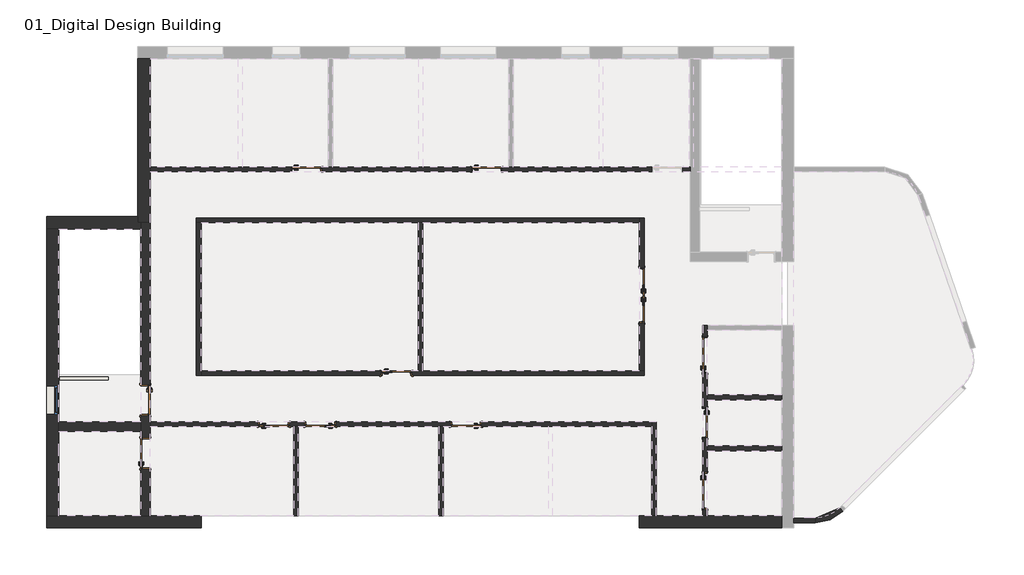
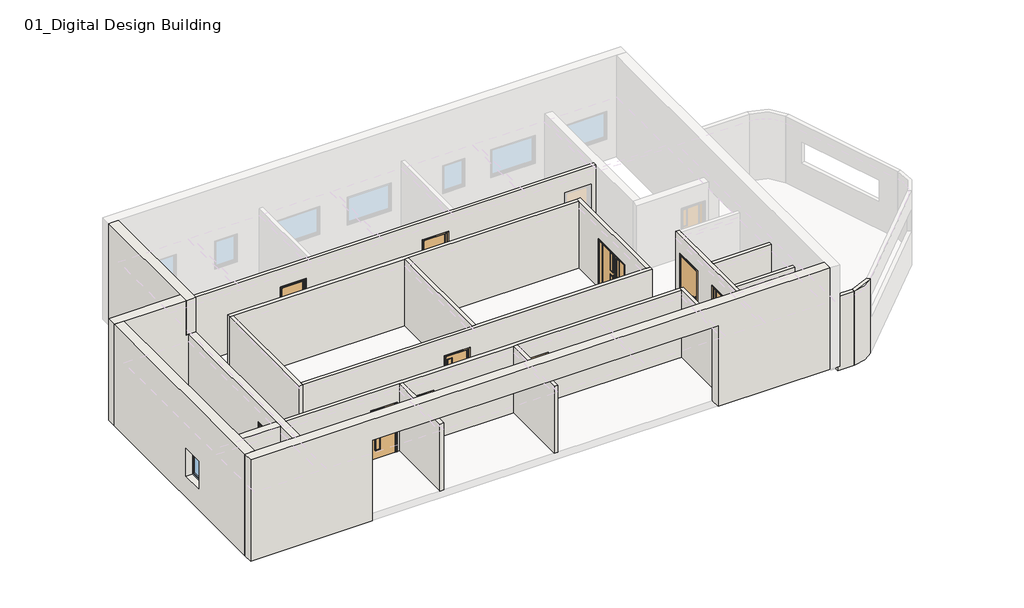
# One storey, part 1 of 2: 22 walls, 12 doors, 1 window.
"""IFC4 building model written with IfcOpenShell, lengths in millimetres."""

from ifc_helpers import new_model, si_unit, point, frame, frame_2d, origin, place, context, project, spatial, polyline, circle_curve, trimmed, segment, composite_curve, outline, extrude, faceted_brep, transform, mapped, element, save
from components import doors_intdbl_3_1810x2110mm_64ebe9ef, doors_intdbl_3_1810x2110mm_1437e5d7, doors_intsgl_1_1010x2110mm_12a6edaf, doors_intsgl_1_1010x2110mm_5517da8e, doors_intsgl_1_1200x2110mm_e831e5cc, doors_intsgl_1_1200x2110mm_07b1b6db, doors_intsgl_3_1010x2110mm_4cc0f6b2, doors_intsgl_3_1010x2110mm_0dcaffd3, windows_concept_plain_sgl_910x1210mm_ef0b7ad2

model = new_model("IFC4")

# Units and contexts
model_context = context("Model", 3, world=origin())
ifc_project = project(units=[si_unit("LENGTHUNIT", "METRE", prefix="MILLI")], contexts=[model_context])

# Site, building, storey
site = spatial("IfcSite", under=ifc_project)
building = spatial("IfcBuilding", under=site)
storey = spatial("IfcBuildingStorey", under=building, Name="01_Digital Design Building", Elevation=4500.0)

# Doors
placement = place(None, origin())
doors_intdbl_3_1810x2110mm_shape = doors_intdbl_3_1810x2110mm_64ebe9ef(model_context)
doors_intdbl_3_1810x2110mm_2_shape = doors_intdbl_3_1810x2110mm_1437e5d7(model_context)
element("IfcDoor", 1, ObjectType="Doors_IntDbl_3 : 1810x2110mm", at=placement, inside=storey, context=model_context, shape_type="MappedRepresentation", body=[
    mapped(doors_intdbl_3_1810x2110mm_shape, transform((441217.3206883, -389199.0026386, 4500.0), x_axis=(0.0, -1.0, 0.0), y_axis=(1.0, 0.0, 0.0), z_axis=(0.0, 0.0, 1.0))),
    mapped(doors_intdbl_3_1810x2110mm_2_shape, transform((441217.3206883, -389199.0026386, 4500.0), x_axis=(0.0, -1.0, 0.0), y_axis=(1.0, 0.0, 0.0), z_axis=(0.0, 0.0, 1.0))),
])
doors_intsgl_1_1010x2110mm_shape = doors_intsgl_1_1010x2110mm_12a6edaf(model_context)
element("IfcDoor", 2, ObjectType="Doors_IntSgl_1 : 1010x2110mm", at=placement, inside=storey, context=model_context, shape_type="MappedRepresentation", body=[
    mapped(doors_intsgl_1_1010x2110mm_shape, transform((430375.4635455, -385124.0026386, 4500.0), x_axis=(1.0, 0.0, 0.0), y_axis=(0.0, 1.0, 0.0), z_axis=(0.0, 0.0, 1.0))),
])
element("IfcDoor", 3, ObjectType="Doors_IntSgl_1 : 1010x2110mm", at=placement, inside=storey, context=model_context, shape_type="MappedRepresentation", body=[
    mapped(doors_intsgl_1_1010x2110mm_shape, transform((436208.6064026, -385124.0026386, 4500.0), x_axis=(1.0, 0.0, 0.0), y_axis=(0.0, 1.0, 0.0), z_axis=(0.0, 0.0, 1.0))),
])
element("IfcDoor", 4, ObjectType="Doors_IntSgl_1 : 1010x2110mm", at=placement, inside=storey, context=model_context, shape_type="MappedRepresentation", body=[
    mapped(doors_intsgl_1_1010x2110mm_shape, transform((443263.3206883, -393328.0026386, 4500.0), x_axis=(0.0, -1.0, 0.0), y_axis=(1.0, 0.0, 0.0), z_axis=(0.0, 0.0, 1.0))),
])
element("IfcDoor", 5, ObjectType="Doors_IntSgl_1 : 1010x2110mm", at=placement, inside=storey, context=model_context, shape_type="MappedRepresentation", body=[
    mapped(doors_intsgl_1_1010x2110mm_shape, transform((435533.3206883, -393374.0026386, 4500.0), x_axis=(-1.0, 0.0, 0.0), y_axis=(0.0, -1.0, 0.0), z_axis=(0.0, 0.0, 1.0))),
])
doors_intsgl_1_1010x2110mm_2_shape = doors_intsgl_1_1010x2110mm_5517da8e(model_context)
element("IfcDoor", 6, ObjectType="Doors_IntSgl_1 : 1010x2110mm", at=placement, inside=storey, context=model_context, shape_type="MappedRepresentation", body=[
    mapped(doors_intsgl_1_1010x2110mm_2_shape, transform((425167.3206883, -392594.0026386, 4500.0), x_axis=(0.0, -1.0, 0.0), y_axis=(1.0, 0.0, 0.0), z_axis=(0.0, 0.0, 1.0))),
])
element("IfcDoor", 7, ObjectType="Doors_IntSgl_1 : 1010x2110mm", at=placement, inside=storey, context=model_context, shape_type="MappedRepresentation", body=[
    mapped(doors_intsgl_1_1010x2110mm_2_shape, transform((425167.3206883, -394314.0026386, 4500.0), x_axis=(0.0, 1.0, 0.0), y_axis=(-1.0, 0.0, 0.0), z_axis=(0.0, 0.0, 1.0))),
])
doors_intsgl_1_1200x2110mm_shape = doors_intsgl_1_1200x2110mm_e831e5cc(model_context)
element("IfcDoor", 8, ObjectType="Doors_IntSgl_1 : 1200x2110mm", at=placement, inside=storey, context=model_context, shape_type="MappedRepresentation", body=[
    mapped(doors_intsgl_1_1200x2110mm_shape, transform((443263.3206883, -391128.0026386, 4500.0), x_axis=(0.0, 1.0, 0.0), y_axis=(-1.0, 0.0, 0.0), z_axis=(0.0, 0.0, 1.0))),
])
doors_intsgl_1_1200x2110mm_2_shape = doors_intsgl_1_1200x2110mm_07b1b6db(model_context)
element("IfcDoor", 9, ObjectType="Doors_IntSgl_1 : 1200x2110mm", at=placement, inside=storey, context=model_context, shape_type="MappedRepresentation", body=[
    mapped(doors_intsgl_1_1200x2110mm_2_shape, transform((443263.3206883, -395528.0026386, 4500.0), x_axis=(0.0, -1.0, 0.0), y_axis=(1.0, 0.0, 0.0), z_axis=(0.0, 0.0, 1.0))),
])
doors_intsgl_3_1010x2110mm_shape = doors_intsgl_3_1010x2110mm_4cc0f6b2(model_context)
element("IfcDoor", 10, ObjectType="Doors_IntSgl_3 : 1010x2110mm", at=placement, inside=storey, context=model_context, shape_type="MappedRepresentation", body=[
    mapped(doors_intsgl_3_1010x2110mm_shape, transform((430824.5429107, -393374.0026386, 4500.0), x_axis=(-1.0, 0.0, 0.0), y_axis=(0.0, -1.0, 0.0), z_axis=(0.0, 0.0, 1.0))),
])
doors_intsgl_3_1010x2110mm_2_shape = doors_intsgl_3_1010x2110mm_0dcaffd3(model_context)
element("IfcDoor", 11, ObjectType="Doors_IntSgl_3 : 1010x2110mm", at=placement, inside=storey, context=model_context, shape_type="MappedRepresentation", body=[
    mapped(doors_intsgl_3_1010x2110mm_2_shape, transform((429323.3206883, -393374.0026386, 4500.0), x_axis=(1.0, 0.0, 0.0), y_axis=(0.0, 1.0, 0.0), z_axis=(0.0, 0.0, 1.0))),
])
element("IfcDoor", 12, ObjectType="Doors_IntSgl_3 : 1010x2110mm", at=placement, inside=storey, context=model_context, shape_type="MappedRepresentation", body=[
    mapped(doors_intsgl_3_1010x2110mm_shape, transform((433287.3206883, -391724.0026386, 4500.0), x_axis=(1.0, 0.0, 0.0), y_axis=(0.0, 1.0, 0.0), z_axis=(0.0, 0.0, 1.0))),
])

# Walls
element("IfcWall", 13, ObjectType="Wall_Exterior_WSUK", at=placement, inside=storey, context=model_context, shape_type="Brep", body=[
    faceted_brep([(421974.3206883, -396328.0026386, 8900.0), (422376.3206883, -396328.0026386, 8900.0), (445738.3206883, -396328.0026386, 8900.0), (445738.3206883, -396328.0026386, 4500.0), (443338.3206883, -396328.0026386, 4500.0), (443188.3206883, -396328.0026386, 4500.0), (441688.3206883, -396328.0026386, 4500.0), (441538.3206883, -396328.0026386, 4500.0), (441142.3206883, -396328.0026386, 4500.0), (441142.3206883, -396328.0026386, 8000.0), (426972.3206883, -396328.0026386, 8000.0), (426972.3206883, -396328.0026386, 4500.0), (425322.3206883, -396328.0026386, 4500.0), (425012.3206883, -396328.0026386, 4500.0), (422376.3206883, -396328.0026386, 4500.0), (421974.3206883, -396328.0026386, 4500.0), (445738.3206883, -396730.0026386, 8900.0), (421974.3206883, -396730.0026386, 8900.0), (421974.3206883, -396730.0026386, 4500.0), (426972.3206883, -396730.0026386, 4500.0), (426972.3206883, -396730.0026386, 8000.0), (441142.3206883, -396730.0026386, 8000.0), (441142.3206883, -396730.0026386, 4500.0), (445738.3206883, -396730.0026386, 4500.0)], [[[0, 1, 2, 3, 4, 5, 6, 7, 8, 9, 10, 11, 12, 13, 14, 15]], [[16, 17, 18, 19, 20, 21, 22, 23]], [[3, 23, 22, 8, 7, 6, 5, 4]], [[18, 15, 14, 13, 12, 11, 19]], [[2, 1, 0, 17, 16]], [[2, 16, 23, 3]], [[0, 15, 18, 17]], [[21, 9, 8, 22]], [[9, 21, 20, 10]], [[10, 20, 19, 11]]]),
])
element("IfcWall", 14, ObjectType="Wall_Exterior_WSUK", at=placement, inside=storey, context=model_context, shape_type="Brep", body=[
    faceted_brep([(424920.3206883, -381550.0026386, 8900.0), (424920.3206883, -381550.0026386, 4500.0), (424920.3206883, -386647.0026386, 4500.0), (424920.3206883, -386848.0026386, 4500.0), (424920.3206883, -386848.0026386, 7400.0), (424920.3206883, -387049.0026386, 7400.0), (424920.3206883, -387049.0026386, 8900.0), (424920.3206883, -386647.0026386, 8900.0), (425322.3206883, -381550.0026386, 4500.0), (425322.3206883, -381550.0026386, 8900.0), (425322.3206883, -387049.0026386, 8900.0), (425322.3206883, -387049.0026386, 7400.0), (425322.3206883, -386848.0026386, 7400.0), (425322.3206883, -386848.0026386, 4500.0), (425322.3206883, -385199.0026386, 4500.0), (425322.3206883, -385049.0026386, 4500.0), (425012.3206883, -381550.0026386, 4500.0), (425012.3206883, -386848.0026386, 4500.0), (425012.3206883, -386848.0026386, 7400.0), (425012.3206883, -387049.0026386, 7400.0)], [[[0, 1, 2, 3, 4, 5, 6, 7]], [[8, 9, 10, 11, 12, 13, 14, 15]], [[3, 2, 1, 16, 8, 15, 14, 13, 17]], [[0, 7, 6, 10, 9]], [[4, 3, 17, 13, 12, 18]], [[11, 19, 5, 4, 18, 12]], [[6, 5, 19, 11, 10]], [[0, 9, 8, 16, 1]]]),
])
element("IfcWall", 15, ObjectType="Wall_Exterior_WSUK", at=placement, inside=storey, context=model_context, shape_type="Brep", body=[
    faceted_brep([(424920.3206883, -386647.0026386, 4500.0), (421974.3206883, -386647.0026386, 4500.0), (421974.3206883, -386647.0026386, 8900.0), (424920.3206883, -386647.0026386, 8900.0), (424920.3206883, -386647.0026386, 7400.0), (425012.3206883, -387049.0026386, 4500.0), (425012.3206883, -387049.0026386, 7400.0), (424920.3206883, -387049.0026386, 7400.0), (424920.3206883, -387049.0026386, 8900.0), (422376.3206883, -387049.0026386, 8900.0), (421974.3206883, -387049.0026386, 8900.0), (421974.3206883, -387049.0026386, 4500.0), (422376.3206883, -387049.0026386, 4500.0), (424920.3206883, -386848.0026386, 4500.0), (425012.3206883, -386848.0026386, 4500.0), (424920.3206883, -386848.0026386, 7400.0), (425012.3206883, -386848.0026386, 7400.0)], [[[0, 1, 2, 3, 4]], [[5, 6, 7, 8, 9, 10, 11, 12]], [[1, 0, 13, 14, 5, 12, 11]], [[3, 2, 10, 9, 8]], [[2, 1, 11, 10]], [[15, 7, 6, 16]], [[0, 4, 15, 13]], [[15, 16, 14, 13]], [[16, 6, 5, 14]], [[4, 3, 8, 7, 15]]]),
])
element("IfcWall", 16, ObjectType="Wall_Exterior_WSUK", at=placement, inside=storey, context=model_context, shape_type="Brep", body=[
    faceted_brep([(421974.3206883, -387049.0026386, 4500.0), (421974.3206883, -396328.0026386, 4500.0), (421974.3206883, -396328.0026386, 8900.0), (421974.3206883, -387049.0026386, 8900.0), (421974.3206883, -392139.0026386, 6610.0), (421974.3206883, -393049.0026386, 6610.0), (421974.3206883, -393049.0026386, 5400.0), (421974.3206883, -392139.0026386, 5400.0), (422376.3206883, -387049.0026386, 4500.0), (422376.3206883, -387049.0026386, 8900.0), (422376.3206883, -396328.0026386, 8900.0), (422376.3206883, -396328.0026386, 4500.0), (422376.3206883, -393609.0026386, 4500.0), (422376.3206883, -393299.0026386, 4500.0), (422376.3206883, -392139.0026386, 6610.0), (422376.3206883, -392139.0026386, 5400.0), (422376.3206883, -393049.0026386, 5400.0), (422376.3206883, -393049.0026386, 6610.0)], [[[0, 1, 2, 3], [4, 5, 6, 7]], [[8, 9, 10, 11, 12, 13], [14, 15, 16, 17]], [[1, 0, 8, 13, 12, 11]], [[3, 2, 10, 9]], [[0, 3, 9, 8]], [[15, 14, 4, 7]], [[16, 15, 7, 6]], [[17, 16, 6, 5]], [[14, 17, 5, 4]], [[2, 1, 11, 10]]]),
])
element("IfcWall", 17, ObjectType="Wall_Interior_WSUK", at=placement, inside=storey, context=model_context, shape_type="Brep", body=[
    faceted_brep([(442792.3206883, -385199.0026386, 7400.0), (425322.3206883, -385199.0026386, 7400.0), (425322.3206883, -385199.0026386, 4500.0), (429870.4635455, -385199.0026386, 4500.0), (429870.4635455, -385199.0026386, 6610.0), (430880.4635455, -385199.0026386, 6610.0), (430880.4635455, -385199.0026386, 4500.0), (435703.6064026, -385199.0026386, 4500.0), (435703.6064026, -385199.0026386, 6610.0), (436713.6064026, -385199.0026386, 6610.0), (436713.6064026, -385199.0026386, 4500.0), (441536.7492598, -385199.0026386, 4500.0), (441536.7492598, -385199.0026386, 6610.0), (442546.7492598, -385199.0026386, 6610.0), (442546.7492598, -385199.0026386, 4500.0), (442792.3206883, -385199.0026386, 4500.0), (425322.3206883, -385049.0026386, 7400.0), (431080.4635455, -385049.0026386, 7400.0), (431230.4635455, -385049.0026386, 7400.0), (436913.6064026, -385049.0026386, 7400.0), (437063.6064026, -385049.0026386, 7400.0), (442792.3206883, -385049.0026386, 7400.0), (442792.3206883, -385049.0026386, 4500.0), (442546.7492598, -385049.0026386, 4500.0), (442546.7492598, -385049.0026386, 6610.0), (441536.7492598, -385049.0026386, 6610.0), (441536.7492598, -385049.0026386, 4500.0), (437063.6064026, -385049.0026386, 4500.0), (436913.6064026, -385049.0026386, 4500.0), (436713.6064026, -385049.0026386, 4500.0), (436713.6064026, -385049.0026386, 6610.0), (435703.6064026, -385049.0026386, 6610.0), (435703.6064026, -385049.0026386, 4500.0), (431230.4635455, -385049.0026386, 4500.0), (431080.4635455, -385049.0026386, 4500.0), (430880.4635455, -385049.0026386, 4500.0), (430880.4635455, -385049.0026386, 6610.0), (429870.4635455, -385049.0026386, 6610.0), (429870.4635455, -385049.0026386, 4500.0), (425322.3206883, -385049.0026386, 4500.0)], [[[0, 1, 2, 3, 4, 5, 6, 7, 8, 9, 10, 11, 12, 13, 14, 15]], [[16, 17, 18, 19, 20, 21, 22, 23, 24, 25, 26, 27, 28, 29, 30, 31, 32, 33, 34, 35, 36, 37, 38, 39]], [[6, 35, 34, 33, 32, 7]], [[38, 3, 2, 39]], [[10, 29, 28, 27, 26, 11]], [[22, 15, 14, 23]], [[1, 0, 21, 20, 19, 18, 17, 16]], [[5, 36, 35, 6]], [[36, 5, 4, 37]], [[37, 4, 3, 38]], [[9, 30, 29, 10]], [[30, 9, 8, 31]], [[31, 8, 7, 32]], [[2, 1, 16, 39]], [[13, 24, 23, 14]], [[24, 13, 12, 25]], [[25, 12, 11, 26]], [[0, 15, 22, 21]]]),
])
element("IfcWall", 18, ObjectType="Wall_Interior_WSUK", at=placement, inside=storey, context=model_context, shape_type="Brep", body=[
    faceted_brep([(443188.3206883, -396328.0026386, 7400.0), (443188.3206883, -390178.0026386, 7400.0), (443188.3206883, -390178.0026386, 4500.0), (443188.3206883, -390528.0026386, 4500.0), (443188.3206883, -390528.0026386, 6610.0), (443188.3206883, -391728.0026386, 6610.0), (443188.3206883, -391728.0026386, 4500.0), (443188.3206883, -392823.0026386, 4500.0), (443188.3206883, -392823.0026386, 6610.0), (443188.3206883, -393833.0026386, 6610.0), (443188.3206883, -393833.0026386, 4500.0), (443188.3206883, -394928.0026386, 4500.0), (443188.3206883, -394928.0026386, 6610.0), (443188.3206883, -396128.0026386, 6610.0), (443188.3206883, -396128.0026386, 4500.0), (443188.3206883, -396328.0026386, 4500.0), (443338.3206883, -390178.0026386, 7400.0), (443338.3206883, -390328.0026386, 7400.0), (443338.3206883, -392428.0026386, 7400.0), (443338.3206883, -392578.0026386, 7400.0), (443338.3206883, -394078.0026386, 7400.0), (443338.3206883, -394228.0026386, 7400.0), (443338.3206883, -396328.0026386, 7400.0), (443338.3206883, -396328.0026386, 4500.0), (443338.3206883, -396128.0026386, 4500.0), (443338.3206883, -396128.0026386, 6610.0), (443338.3206883, -394928.0026386, 6610.0), (443338.3206883, -394928.0026386, 4500.0), (443338.3206883, -394228.0026386, 4500.0), (443338.3206883, -394078.0026386, 4500.0), (443338.3206883, -393833.0026386, 4500.0), (443338.3206883, -393833.0026386, 6610.0), (443338.3206883, -392823.0026386, 6610.0), (443338.3206883, -392823.0026386, 4500.0), (443338.3206883, -392578.0026386, 4500.0), (443338.3206883, -392428.0026386, 4500.0), (443338.3206883, -391728.0026386, 4500.0), (443338.3206883, -391728.0026386, 6610.0), (443338.3206883, -390528.0026386, 6610.0), (443338.3206883, -390528.0026386, 4500.0), (443338.3206883, -390328.0026386, 4500.0), (443338.3206883, -390178.0026386, 4500.0)], [[[0, 1, 2, 3, 4, 5, 6, 7, 8, 9, 10, 11, 12, 13, 14, 15]], [[16, 17, 18, 19, 20, 21, 22, 23, 24, 25, 26, 27, 28, 29, 30, 31, 32, 33, 34, 35, 36, 37, 38, 39, 40, 41]], [[2, 41, 40, 39, 3]], [[23, 15, 14, 24]], [[6, 36, 35, 34, 33, 7]], [[10, 30, 29, 28, 27, 11]], [[1, 0, 22, 21, 20, 19, 18, 17, 16]], [[2, 1, 16, 41]], [[0, 15, 23, 22]], [[38, 4, 3, 39]], [[4, 38, 37, 5]], [[5, 37, 36, 6]], [[9, 31, 30, 10]], [[31, 9, 8, 32]], [[32, 8, 7, 33]], [[13, 25, 24, 14]], [[25, 13, 12, 26]], [[26, 12, 11, 27]]]),
])
element("IfcWall", 19, ObjectType="Wall_Interior_WSUK", at=placement, inside=storey, context=model_context, shape_type="SweptSolid", body=[
    extrude(outline(polyline([(445738.3206883, -394228.0026386), (443338.3206883, -394228.0026386), (443338.3206883, -394078.0026386), (445738.3206883, -394078.0026386), (445738.3206883, -394228.0026386)])), frame((0.0, 0.0, 4500.0), z_axis=(0.0, 0.0, 1.0), x_axis=(1.0, 0.0, 0.0)), (0.0, 0.0, 1.0), 2900.0),
])
element("IfcWall", 20, ObjectType="Wall_Interior_WSUK", at=placement, inside=storey, context=model_context, shape_type="SweptSolid", body=[
    extrude(outline(polyline([(445738.3206883, -392578.0026386), (443338.3206883, -392578.0026386), (443338.3206883, -392428.0026386), (445738.3206883, -392428.0026386), (445738.3206883, -392578.0026386)])), frame((0.0, 0.0, 4500.0), z_axis=(0.0, 0.0, 1.0), x_axis=(1.0, 0.0, 0.0)), (0.0, 0.0, 1.0), 2900.0),
])
element("IfcWall", 21, ObjectType="Wall_Interior_WSUK", at=placement, inside=storey, context=model_context, shape_type="Brep", body=[
    faceted_brep([(441538.3206883, -393449.0026386, 7400.0), (434802.8762438, -393449.0026386, 7400.0), (434652.8762438, -393449.0026386, 7400.0), (430119.5429107, -393449.0026386, 7400.0), (429969.5429107, -393449.0026386, 7400.0), (425322.3206883, -393449.0026386, 7400.0), (425322.3206883, -393449.0026386, 4500.0), (428818.3206883, -393449.0026386, 4500.0), (428818.3206883, -393449.0026386, 6610.0), (429828.3206883, -393449.0026386, 6610.0), (429828.3206883, -393449.0026386, 4500.0), (429969.5429107, -393449.0026386, 4500.0), (430119.5429107, -393449.0026386, 4500.0), (430319.5429107, -393449.0026386, 4500.0), (430319.5429107, -393449.0026386, 6610.0), (431329.5429107, -393449.0026386, 6610.0), (431329.5429107, -393449.0026386, 4500.0), (434652.8762438, -393449.0026386, 4500.0), (434802.8762438, -393449.0026386, 4500.0), (435028.3206883, -393449.0026386, 4500.0), (435028.3206883, -393449.0026386, 6610.0), (436038.3206883, -393449.0026386, 6610.0), (436038.3206883, -393449.0026386, 4500.0), (441538.3206883, -393449.0026386, 4500.0), (425322.3206883, -393299.0026386, 7400.0), (441538.3206883, -393299.0026386, 7400.0), (441538.3206883, -393299.0026386, 4500.0), (436038.3206883, -393299.0026386, 4500.0), (436038.3206883, -393299.0026386, 6610.0), (435028.3206883, -393299.0026386, 6610.0), (435028.3206883, -393299.0026386, 4500.0), (431329.5429107, -393299.0026386, 4500.0), (431329.5429107, -393299.0026386, 6610.0), (430319.5429107, -393299.0026386, 6610.0), (430319.5429107, -393299.0026386, 4500.0), (429828.3206883, -393299.0026386, 4500.0), (429828.3206883, -393299.0026386, 6610.0), (428818.3206883, -393299.0026386, 6610.0), (428818.3206883, -393299.0026386, 4500.0), (425322.3206883, -393299.0026386, 4500.0)], [[[0, 1, 2, 3, 4, 5, 6, 7, 8, 9, 10, 11, 12, 13, 14, 15, 16, 17, 18, 19, 20, 21, 22, 23]], [[24, 25, 26, 27, 28, 29, 30, 31, 32, 33, 34, 35, 36, 37, 38, 39]], [[26, 23, 22, 27]], [[30, 19, 18, 17, 16, 31]], [[34, 13, 12, 11, 10, 35]], [[6, 39, 38, 7]], [[5, 4, 3, 2, 1, 0, 25, 24]], [[0, 23, 26, 25]], [[29, 20, 19, 30]], [[20, 29, 28, 21]], [[21, 28, 27, 22]], [[33, 14, 13, 34]], [[14, 33, 32, 15]], [[15, 32, 31, 16]], [[9, 36, 35, 10]], [[36, 9, 8, 37]], [[37, 8, 7, 38]], [[6, 5, 24, 39]]]),
])
element("IfcWall", 22, ObjectType="Wall_Interior_WSUK", at=placement, inside=storey, context=model_context, shape_type="Brep", body=[
    faceted_brep([(441538.3206883, -393299.0026386, 4500.0), (441538.3206883, -393449.0026386, 4500.0), (441538.3206883, -396328.0026386, 4500.0), (441538.3206883, -396328.0026386, 7400.0), (441538.3206883, -393449.0026386, 7400.0), (441538.3206883, -393299.0026386, 7400.0), (441688.3206883, -393299.0026386, 4500.0), (441688.3206883, -393299.0026386, 7400.0), (441688.3206883, -396328.0026386, 7400.0), (441688.3206883, -396328.0026386, 4500.0)], [[[0, 1, 2, 3, 4, 5]], [[6, 7, 8, 9]], [[2, 1, 0, 6, 9]], [[5, 4, 3, 8, 7]], [[0, 5, 7, 6]], [[3, 2, 9, 8]]]),
])
element("IfcWall", 23, ObjectType="Wall_Interior_WSUK", at=placement, inside=storey, context=model_context, shape_type="SweptSolid", body=[
    extrude(outline(polyline([(429969.5429107, -396328.0026386), (429969.5429107, -393449.0026386), (430119.5429107, -393449.0026386), (430119.5429107, -396328.0026386), (429969.5429107, -396328.0026386)])), frame((0.0, 0.0, 4500.0), z_axis=(0.0, 0.0, 1.0), x_axis=(1.0, 0.0, 0.0)), (0.0, 0.0, 1.0), 2900.0),
])
element("IfcWall", 24, ObjectType="Wall_Interior_WSUK", at=placement, inside=storey, context=model_context, shape_type="SweptSolid", body=[
    extrude(outline(polyline([(434652.8762438, -396328.0026386), (434652.8762438, -393449.0026386), (434802.8762438, -393449.0026386), (434802.8762438, -396328.0026386), (434652.8762438, -396328.0026386)])), frame((0.0, 0.0, 4500.0), z_axis=(0.0, 0.0, 1.0), x_axis=(1.0, 0.0, 0.0)), (0.0, 0.0, 1.0), 2900.0),
])
element("IfcWall", 25, ObjectType="Wall_Interior_WSUK", at=placement, inside=storey, context=model_context, shape_type="Brep", body=[
    faceted_brep([(426822.3206883, -386849.0026386, 4500.0), (426972.3206883, -386849.0026386, 4500.0), (433992.3206883, -386849.0026386, 4500.0), (434142.3206883, -386849.0026386, 4500.0), (441142.3206883, -386849.0026386, 4500.0), (441142.3206883, -386849.0026386, 7400.0), (434142.3206883, -386849.0026386, 7400.0), (433992.3206883, -386849.0026386, 7400.0), (426972.3206883, -386849.0026386, 7400.0), (426822.3206883, -386849.0026386, 7400.0), (426822.3206883, -386699.0026386, 4500.0), (426822.3206883, -386699.0026386, 7400.0), (441142.3206883, -386699.0026386, 7400.0), (441142.3206883, -386699.0026386, 4500.0)], [[[0, 1, 2, 3, 4, 5, 6, 7, 8, 9]], [[10, 11, 12, 13]], [[4, 3, 2, 1, 0, 10, 13]], [[9, 8, 7, 6, 5, 12, 11]], [[0, 9, 11, 10]], [[5, 4, 13, 12]]]),
])
element("IfcWall", 26, ObjectType="Wall_Interior_WSUK", at=placement, inside=storey, context=model_context, shape_type="Brep", body=[
    faceted_brep([(426972.3206883, -391799.0026386, 4500.0), (426972.3206883, -391649.0026386, 4500.0), (426972.3206883, -386849.0026386, 4500.0), (426972.3206883, -386849.0026386, 7400.0), (426972.3206883, -391649.0026386, 7400.0), (426972.3206883, -391799.0026386, 7400.0), (426822.3206883, -391799.0026386, 4500.0), (426822.3206883, -391799.0026386, 7400.0), (426822.3206883, -386849.0026386, 7400.0), (426822.3206883, -386849.0026386, 4500.0)], [[[0, 1, 2, 3, 4, 5]], [[6, 7, 8, 9]], [[2, 1, 0, 6, 9]], [[5, 4, 3, 8, 7]], [[3, 2, 9, 8]], [[0, 5, 7, 6]]]),
])
element("IfcWall", 27, ObjectType="Wall_Interior_WSUK", at=placement, inside=storey, context=model_context, shape_type="Brep", body=[
    faceted_brep([(441142.3206883, -391649.0026386, 7400.0), (441142.3206883, -386849.0026386, 7400.0), (441142.3206883, -386699.0026386, 7400.0), (441142.3206883, -386699.0026386, 4500.0), (441142.3206883, -386849.0026386, 4500.0), (441142.3206883, -388294.0026386, 4500.0), (441142.3206883, -388294.0026386, 6610.0), (441142.3206883, -390104.0026386, 6610.0), (441142.3206883, -390104.0026386, 4500.0), (441142.3206883, -391649.0026386, 4500.0), (441292.3206883, -386699.0026386, 7400.0), (441292.3206883, -391649.0026386, 7400.0), (441292.3206883, -391649.0026386, 4500.0), (441292.3206883, -390104.0026386, 4500.0), (441292.3206883, -390104.0026386, 6610.0), (441292.3206883, -388294.0026386, 6610.0), (441292.3206883, -388294.0026386, 4500.0), (441292.3206883, -386699.0026386, 4500.0)], [[[0, 1, 2, 3, 4, 5, 6, 7, 8, 9]], [[10, 11, 12, 13, 14, 15, 16, 17]], [[3, 17, 16, 5, 4]], [[12, 9, 8, 13]], [[2, 1, 0, 11, 10]], [[3, 2, 10, 17]], [[0, 9, 12, 11]], [[7, 14, 13, 8]], [[14, 7, 6, 15]], [[15, 6, 5, 16]]]),
])
element("IfcWall", 28, ObjectType="Wall_Interior_WSUK", at=placement, inside=storey, context=model_context, shape_type="SweptSolid", body=[
    extrude(outline(polyline([(433992.3206883, -391649.0026386), (433992.3206883, -386849.0026386), (434142.3206883, -386849.0026386), (434142.3206883, -391649.0026386), (433992.3206883, -391649.0026386)])), frame((0.0, 0.0, 4500.0), z_axis=(0.0, 0.0, 1.0), x_axis=(1.0, 0.0, 0.0)), (0.0, 0.0, 1.0), 2900.0),
])
element("IfcWall", 29, ObjectType="Wall_Interior_WSUK", at=placement, inside=storey, context=model_context, shape_type="Brep", body=[
    faceted_brep([(441292.3206883, -391799.0026386, 7400.0), (426972.3206883, -391799.0026386, 7400.0), (426972.3206883, -391799.0026386, 4500.0), (432782.3206883, -391799.0026386, 4500.0), (432782.3206883, -391799.0026386, 6610.0), (433792.3206883, -391799.0026386, 6610.0), (433792.3206883, -391799.0026386, 4500.0), (441292.3206883, -391799.0026386, 4500.0), (426972.3206883, -391649.0026386, 7400.0), (433992.3206883, -391649.0026386, 7400.0), (434142.3206883, -391649.0026386, 7400.0), (441142.3206883, -391649.0026386, 7400.0), (441292.3206883, -391649.0026386, 7400.0), (441292.3206883, -391649.0026386, 4500.0), (441142.3206883, -391649.0026386, 4500.0), (434142.3206883, -391649.0026386, 4500.0), (433992.3206883, -391649.0026386, 4500.0), (433792.3206883, -391649.0026386, 4500.0), (433792.3206883, -391649.0026386, 6610.0), (432782.3206883, -391649.0026386, 6610.0), (432782.3206883, -391649.0026386, 4500.0), (426972.3206883, -391649.0026386, 4500.0)], [[[0, 1, 2, 3, 4, 5, 6, 7]], [[8, 9, 10, 11, 12, 13, 14, 15, 16, 17, 18, 19, 20, 21]], [[2, 21, 20, 3]], [[13, 7, 6, 17, 16, 15, 14]], [[1, 0, 12, 11, 10, 9, 8]], [[2, 1, 8, 21]], [[0, 7, 13, 12]], [[5, 18, 17, 6]], [[18, 5, 4, 19]], [[19, 4, 3, 20]]]),
])
element("IfcWall", 30, ObjectType="Wall_Exterior_WSUK 2hr", at=placement, inside=storey, context=model_context, shape_type="Brep", body=[
    faceted_brep([(425012.3206883, -396328.0026386, 7400.0), (425012.3206883, -393609.0026386, 7400.0), (425012.3206883, -393299.0026386, 7400.0), (425012.3206883, -387049.0026386, 7400.0), (425012.3206883, -386848.0026386, 7400.0), (425012.3206883, -386848.0026386, 4500.0), (425012.3206883, -387049.0026386, 4500.0), (425012.3206883, -392089.0026386, 4500.0), (425012.3206883, -392089.0026386, 6610.0), (425012.3206883, -393099.0026386, 6610.0), (425012.3206883, -393099.0026386, 4500.0), (425012.3206883, -393299.0026386, 4500.0), (425012.3206883, -393609.0026386, 4500.0), (425012.3206883, -393809.0026386, 4500.0), (425012.3206883, -393809.0026386, 6610.0), (425012.3206883, -394819.0026386, 6610.0), (425012.3206883, -394819.0026386, 4500.0), (425012.3206883, -396328.0026386, 4500.0), (425322.3206883, -386848.0026386, 7400.0), (425322.3206883, -387049.0026386, 7400.0), (425322.3206883, -393299.0026386, 7400.0), (425322.3206883, -393449.0026386, 7400.0), (425322.3206883, -396328.0026386, 7400.0), (425322.3206883, -396328.0026386, 4500.0), (425322.3206883, -394819.0026386, 4500.0), (425322.3206883, -394819.0026386, 6610.0), (425322.3206883, -393809.0026386, 6610.0), (425322.3206883, -393809.0026386, 4500.0), (425322.3206883, -393449.0026386, 4500.0), (425322.3206883, -393299.0026386, 4500.0), (425322.3206883, -393099.0026386, 4500.0), (425322.3206883, -393099.0026386, 6610.0), (425322.3206883, -392089.0026386, 6610.0), (425322.3206883, -392089.0026386, 4500.0), (425322.3206883, -386848.0026386, 4500.0)], [[[0, 1, 2, 3, 4, 5, 6, 7, 8, 9, 10, 11, 12, 13, 14, 15, 16, 17]], [[18, 19, 20, 21, 22, 23, 24, 25, 26, 27, 28, 29, 30, 31, 32, 33, 34]], [[23, 17, 16, 24]], [[5, 34, 33, 7, 6]], [[10, 30, 29, 28, 27, 13, 12, 11]], [[4, 3, 2, 1, 0, 22, 21, 20, 19, 18]], [[5, 4, 18, 34]], [[0, 17, 23, 22]], [[9, 31, 30, 10]], [[31, 9, 8, 32]], [[32, 8, 7, 33]], [[26, 14, 13, 27]], [[14, 26, 25, 15]], [[15, 25, 24, 16]]]),
])
element("IfcWall", 31, ObjectType="Wall_Exterior_WSUK 2hr", at=placement, inside=storey, context=model_context, shape_type="SweptSolid", body=[
    extrude(outline(polyline([(422376.3206883, -393299.0026386), (425012.3206883, -393299.0026386), (425012.3206883, -393609.0026386), (422376.3206883, -393609.0026386), (422376.3206883, -393299.0026386)])), frame((0.0, 0.0, 4500.0), z_axis=(0.0, 0.0, 1.0), x_axis=(1.0, 0.0, 0.0)), (0.0, 0.0, 1.0), 2900.0),
])
element("IfcWall", 32, ObjectType="Wall_Interior_WSUK", at=placement, inside=storey, context=model_context, shape_type="SweptSolid", body=[
    extrude(outline(polyline([(446140.3206883, -396408.0026386), (446821.3938999, -396408.0026386), (446821.3938999, -396558.0026386), (446140.3206883, -396558.0026386), (446140.3206883, -396408.0026386)])), frame((0.0, 0.0, 4200.0), z_axis=(0.0, 0.0, 1.0), x_axis=(1.0, 0.0, 0.0)), (0.0, 0.0, 1.0), 3200.0),
])
element("IfcWall", 33, ObjectType="Wall_Interior_WSUK", at=placement, inside=storey, context=model_context, shape_type="SweptSolid", body=[
    extrude(outline(composite_curve([segment(polyline([(446821.3938999, -396558.0026386), (446821.3938999, -396408.0026386)]), True, "CONTINUOUS"), segment(trimmed(circle_curve(frame_2d((446821.3938999, -395283.0026386)), 1125.0), [point((446821.3938999, -396408.0026386))], [point((447616.8890287, -396078.4977674))], True, "CARTESIAN"), True, "CONTINUOUS"), segment(polyline([(447616.8890287, -396078.4977674), (447722.9550459, -396184.5637846)]), True, "CONTINUOUS"), segment(trimmed(circle_curve(frame_2d((446821.3938999, -395283.0026386)), 1275.0), [point((447722.9550459, -396184.5637846))], [point((446821.3938999, -396558.0026386))], False, "CARTESIAN"), True, "CONTINUOUS")], self_intersect=False)), frame((0.0, 0.0, 4200.0), z_axis=(0.0, 0.0, 1.0), x_axis=(1.0, 0.0, 0.0)), (0.0, 0.0, 1.0), 3200.0),
])
element("IfcWall", 34, ObjectType="Wall_Interior_Generic", at=placement, inside=storey, context=model_context, shape_type="SweptSolid", body=[
    extrude(outline(polyline([(423962.3206883, -391934.0026386), (422401.3206883, -391934.0026386), (422401.3206883, -391834.0026386), (423962.3206883, -391834.0026386), (423962.3206883, -391934.0026386)])), frame((0.0, 0.0, 4500.0), z_axis=(0.0, 0.0, 1.0), x_axis=(1.0, 0.0, 0.0)), (0.0, 0.0, 1.0), 1200.0),
])

# Window
windows_concept_plain_sgl_910x1210mm_shape = windows_concept_plain_sgl_910x1210mm_ef0b7ad2(model_context)
element("IfcWindow", 35, ObjectType="Windows_Concept_Plain_Sgl : 910x1210mm", at=placement, inside=storey, context=model_context, shape_type="MappedRepresentation", body=[
    mapped(windows_concept_plain_sgl_910x1210mm_shape, transform((422166.8641205, -392594.0026386, 4500.0), x_axis=(0.0, -1.0, 0.0), y_axis=(1.0, 0.0, 0.0), z_axis=(0.0, 0.0, 1.0))),
])

save(model, "model.ifc")
